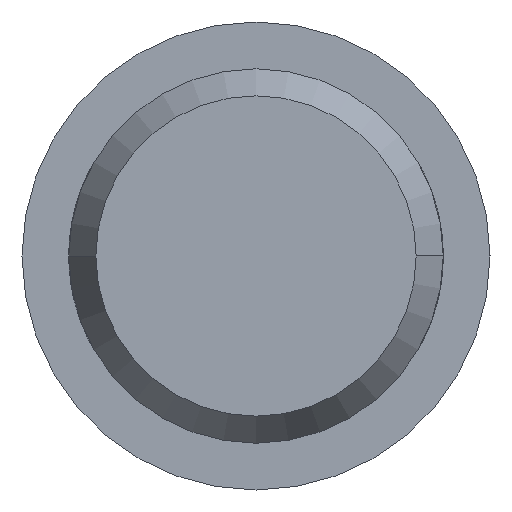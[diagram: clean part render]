
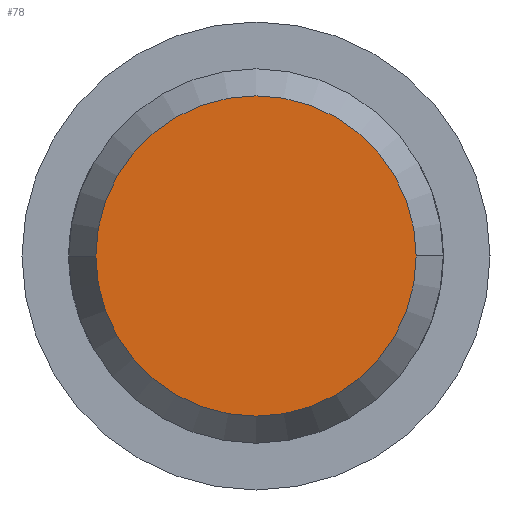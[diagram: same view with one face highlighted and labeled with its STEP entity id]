
A CAD part, left-side view. The second image highlights one B-rep face of the part: STEP entity #78.
In plain terms, the highlighted planar face has unit normal (-1, 0, 0).
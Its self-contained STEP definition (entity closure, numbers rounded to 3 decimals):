
#78 = ADVANCED_FACE ( 'NONE', ( #1719 ), #1091, .T. ) ;
#143 = CARTESIAN_POINT ( 'NONE',  ( 0., 0., 0. ) ) ;
#201 = EDGE_LOOP ( 'NONE', ( #1655, #976 ) ) ;
#225 = DIRECTION ( 'NONE',  ( -1., 0., 0. ) ) ;
#292 = CARTESIAN_POINT ( 'NONE',  ( 0., 0., 0. ) ) ;
#322 = CARTESIAN_POINT ( 'NONE',  ( 0., 1.711, 0. ) ) ;
#340 = DIRECTION ( 'NONE',  ( -1., 0., 0. ) ) ;
#778 = DIRECTION ( 'NONE',  ( 0., -1., 0. ) ) ;
#948 = CIRCLE ( 'NONE', #2353, 1.711 ) ;
#976 = ORIENTED_EDGE ( 'NONE', *, *, #1204, .T. ) ;
#1060 = VERTEX_POINT ( 'NONE', #322 ) ;
#1091 = PLANE ( 'NONE',  #1186 ) ;
#1186 = AXIS2_PLACEMENT_3D ( 'NONE', #143, #340, #1868 ) ;
#1204 = EDGE_CURVE ( 'NONE', #2411, #1060, #2314, .T. ) ;
#1266 = DIRECTION ( 'NONE',  ( -1., 0., 0. ) ) ;
#1655 = ORIENTED_EDGE ( 'NONE', *, *, #2028, .T. ) ;
#1719 = FACE_OUTER_BOUND ( 'NONE', #201, .T. ) ;
#1763 = CARTESIAN_POINT ( 'NONE',  ( 0., 0., 0. ) ) ;
#1868 = DIRECTION ( 'NONE',  ( 0., -1., 0. ) ) ;
#2024 = DIRECTION ( 'NONE',  ( 0., -1., 0. ) ) ;
#2028 = EDGE_CURVE ( 'NONE', #1060, #2411, #948, .T. ) ;
#2035 = CARTESIAN_POINT ( 'NONE',  ( 0., -1.711, 0. ) ) ;
#2198 = AXIS2_PLACEMENT_3D ( 'NONE', #292, #1266, #2024 ) ;
#2314 = CIRCLE ( 'NONE', #2198, 1.711 ) ;
#2353 = AXIS2_PLACEMENT_3D ( 'NONE', #1763, #225, #778 ) ;
#2411 = VERTEX_POINT ( 'NONE', #2035 ) ;
